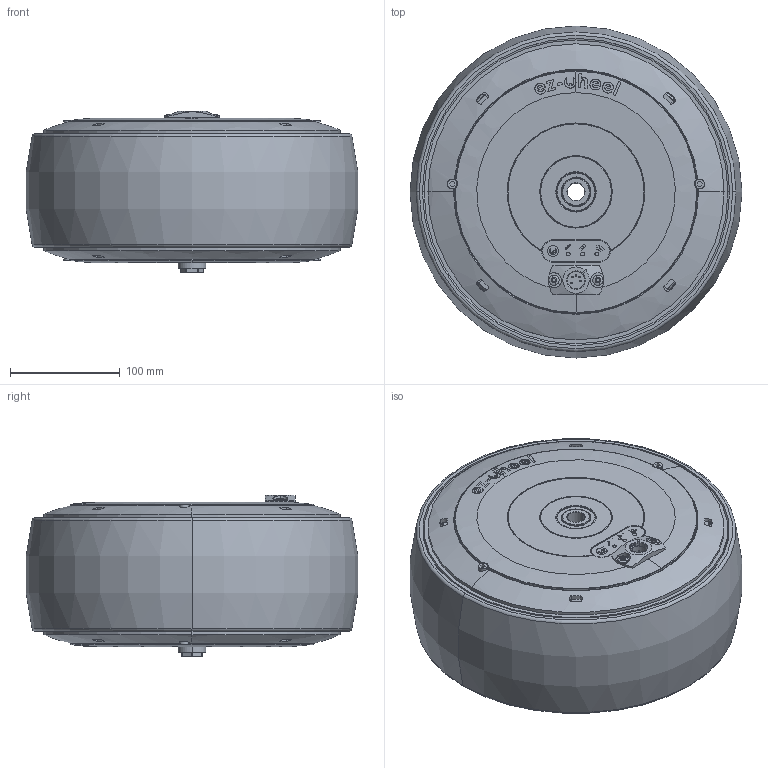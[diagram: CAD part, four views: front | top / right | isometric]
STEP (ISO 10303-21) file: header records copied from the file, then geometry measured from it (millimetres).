
FILE_DESCRIPTION (( 'STEP AP203' ), '1' );
FILE_NAME ('ezW300MW (STEP 3D).STEP', '2016-10-24T09:20:31', ( '' ), ( '' ), 'SwSTEP 2.0', 'SolidWorks 2014', '' );
FILE_SCHEMA (( 'CONFIG_CONTROL_DESIGN' ));
Length unit declared in the file: millimetre
Products named in the file (1): ezW300MW (STEP 3D)
Bounding box: 302.61 x 302.61 x 147.3 mm (x, y, z)
Surface area: 368569.9 mm2 (no closed solid volume)
Topology: 0 solids, 32 shells, 542 faces, 1956 edges, 1425 vertices
Faces by surface type: cylinder 155, plane 149, bspline 114, torus 87, cone 33, sphere 4
Entity records: 28762 total; most frequent: CARTESIAN_POINT 13136, ORIENTED_EDGE 3042, DIRECTION 3038, EDGE_CURVE 1956, VERTEX_POINT 1425, AXIS2_PLACEMENT_3D 1209, CIRCLE 780, EDGE_LOOP 636
